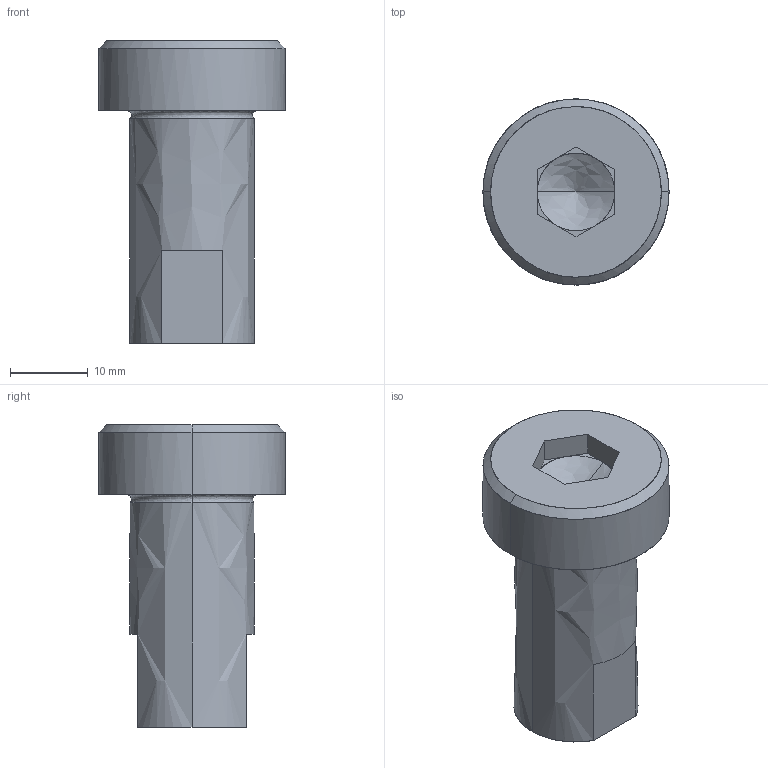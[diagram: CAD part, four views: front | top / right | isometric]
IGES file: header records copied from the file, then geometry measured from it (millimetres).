
Global section: file name: E:\UnigraphicsGraphicData\MISUMI_PRESS-PARTS\IGES\3d_sbtn16-30_00143_r00.igs; native system: NX V5.0; preprocessor: UGS NX IGES V5.0; author: MISUMI; date: 20110105.162506; units: millimetre
Bounding box: 24 x 24 x 39 mm (x, y, z)
Surface area: 3706.3 mm2 (no closed solid volume)
Topology: 0 solids, 0 shells, 38 faces, 212 edges, 208 vertices
Faces by surface type: bspline 38
